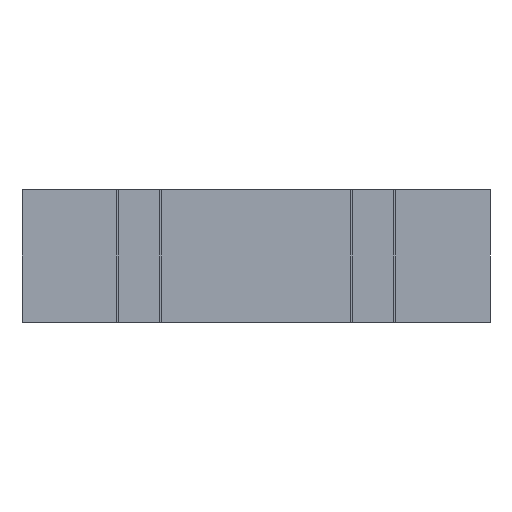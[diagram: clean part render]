
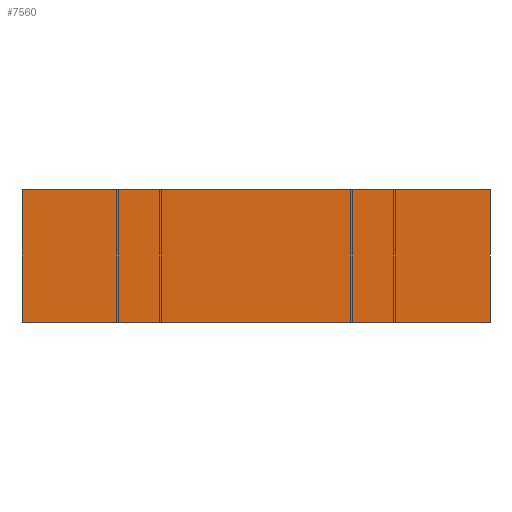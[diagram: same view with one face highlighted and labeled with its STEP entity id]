
A CAD part, front view. The second image highlights one B-rep face of the part: STEP entity #7560.
In plain terms, the highlighted planar face has unit normal (0, -1, 0).
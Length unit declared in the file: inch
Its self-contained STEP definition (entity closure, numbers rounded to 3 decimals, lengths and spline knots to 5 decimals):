
#7497=CARTESIAN_POINT('',(1.77165,-1.77165,1.0));
#7498=VERTEX_POINT('',#7497);
#7505=CARTESIAN_POINT('',(1.77165,-1.77165,0.0));
#7506=VERTEX_POINT('',#7505);
#7507=CARTESIAN_POINT('',(1.77165,-1.77165,0.0));
#7508=DIRECTION('',(0.0,0.0,1.0));
#7509=VECTOR('',#7508,1.0);
#7510=LINE('',#7507,#7509);
#7511=EDGE_CURVE('',#7506,#7498,#7510,.T.);
#7530=CARTESIAN_POINT('',(1.77165,-1.77165,0.0));
#7531=DIRECTION('',(0.,-1.0,0.0));
#7532=DIRECTION('',(0.0,0.0,-1.0));
#7533=AXIS2_PLACEMENT_3D('',#7530,#7531,#7532);
#7534=PLANE('',#7533);
#7535=CARTESIAN_POINT('',(-1.77165,-1.77165,1.0));
#7536=VERTEX_POINT('',#7535);
#7537=CARTESIAN_POINT('',(1.77165,-1.77165,1.0));
#7538=DIRECTION('',(-1.0,0.,0.0));
#7539=VECTOR('',#7538,3.54331);
#7540=LINE('',#7537,#7539);
#7541=EDGE_CURVE('',#7498,#7536,#7540,.T.);
#7542=ORIENTED_EDGE('',*,*,#7541,.T.);
#7543=CARTESIAN_POINT('',(-1.77165,-1.77165,0.0));
#7544=VERTEX_POINT('',#7543);
#7545=CARTESIAN_POINT('',(-1.77165,-1.77165,0.0));
#7546=DIRECTION('',(0.0,0.0,1.0));
#7547=VECTOR('',#7546,1.0);
#7548=LINE('',#7545,#7547);
#7549=EDGE_CURVE('',#7544,#7536,#7548,.T.);
#7550=ORIENTED_EDGE('',*,*,#7549,.F.);
#7551=CARTESIAN_POINT('',(-1.77165,-1.77165,0.0));
#7552=DIRECTION('',(1.0,0.,0.0));
#7553=VECTOR('',#7552,3.54331);
#7554=LINE('',#7551,#7553);
#7555=EDGE_CURVE('',#7544,#7506,#7554,.T.);
#7556=ORIENTED_EDGE('',*,*,#7555,.T.);
#7557=ORIENTED_EDGE('',*,*,#7511,.T.);
#7558=EDGE_LOOP('',(#7542,#7550,#7556,#7557));
#7559=FACE_OUTER_BOUND('',#7558,.T.);
#7560=ADVANCED_FACE('',(#7559),#7534,.T.);
